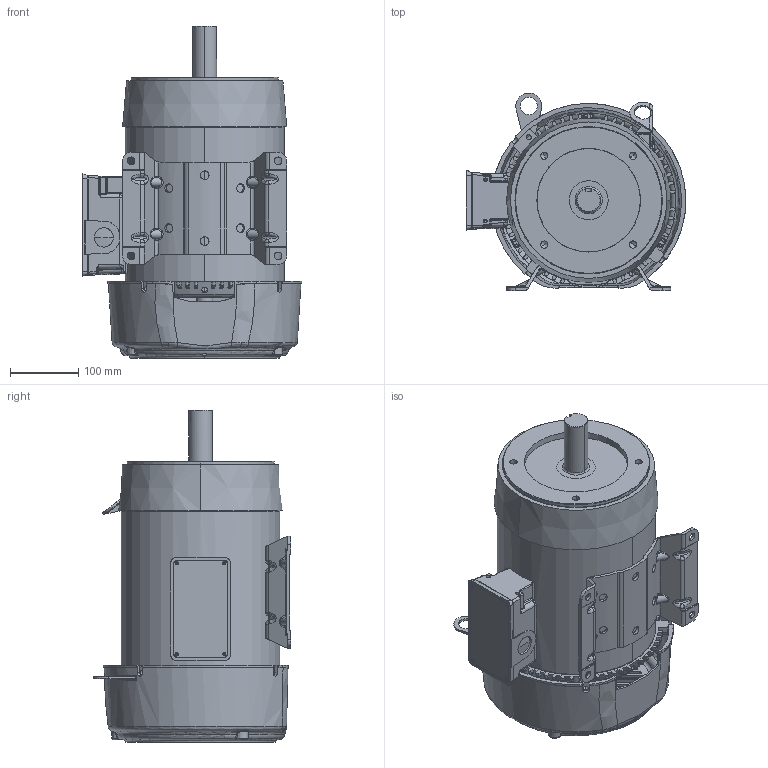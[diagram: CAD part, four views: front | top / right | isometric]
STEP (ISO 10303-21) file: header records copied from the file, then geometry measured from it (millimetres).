
FILE_DESCRIPTION((''),'2;1');
FILE_NAME('210_SSTL_ASM_ASM','2015-06-24T',('NMC2342'),('Nidec Motor Corporation'),'PRO/ENGINEER BY PARAMETRIC TECHNOLOGY CORPORATION, 2013150','PRO/ENGINEER BY PARAMETRIC TECHNOLOGY CORPORATION, 2013150','');
FILE_SCHEMA(('CONFIG_CONTROL_DESIGN'));
Length unit declared in the file: inch
Products named in the file (14): 0496276_AF0; 0496262; 1001103; 0345787; 0496264; 0496266; 0496267; 0904746; 0951821; 0362111; 0095803; PRT0005; 0391816; 210_SSTL_ASM_ASM
Assembly tree (13 placements, depth 2):
  210_SSTL_ASM_ASM
    0496276_AF0
    0496262
    1001103
    0345787
    0496264
    0496266
    0496267
    0904746
    0951821
    0362111
    0095803
    PRT0005
    0391816
Bounding box: 322.95 x 290.73 x 487.71 mm (x, y, z)
Volume: 3413239 mm3; surface area: 1239227.7 mm2
Topology: 15 solids, 15 shells, 2993 faces, 7516 edges, 4522 vertices
Faces by surface type: bspline 1031, cylinder 716, plane 671, cone 219, torus 197, extrusion 94, sphere 65
Entity records: 138642 total; most frequent: CARTESIAN_POINT 75359, ORIENTED_EDGE 14966, DIRECTION 10512, EDGE_CURVE 7483, VERTEX_POINT 4522, AXIS2_PLACEMENT_3D 4103, EDGE_LOOP 3195, B_SPLINE_CURVE_WITH_KNOTS 3157
